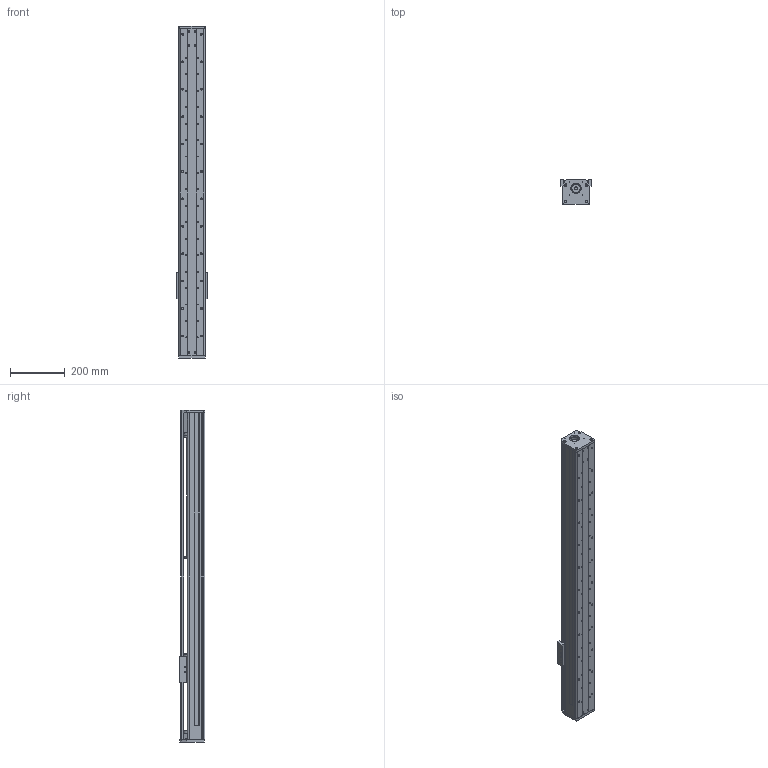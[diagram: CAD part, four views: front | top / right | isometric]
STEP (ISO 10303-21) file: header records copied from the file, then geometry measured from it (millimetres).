
FILE_DESCRIPTION (( 'STEP AP203' ), '1' );
FILE_NAME ('CF95-2-P950.STEP', '2016-02-22T07:41:42', ( 'Sky123.Org' ), ( 'Sky123.Org' ), 'SwSTEP 2.0', 'SolidWorks 2015', '' );
FILE_SCHEMA (( 'CONFIG_CONTROL_DESIGN' ));
Length unit declared in the file: millimetre
Products named in the file (19): 95粣創裔啣; CF95-2-P950; 95盓厥傷; SFS1610-520; 坶踡蹟譫M12-1; 95裔啣-1; 95-2邧寢賑輸; HGR15絳寢; SFU1604-3; hGH15CA賑輸; 95滅袉蝶菜; CF95-57萇儂假蚾啣; 95-2耜啣; CF95固定座（配30-42联轴器）; deep groove ball bearings gb_Rolling bearings 6001 GB 276-94; angular contact ball bearings gb_Rolling bearings S7001 GB 292-94; CF95-2臏倰第; circlips for shaft--type a large gb_GB_CONNECTING_PIECE_RING_RRA 12; 30-42薊粣ん
Assembly tree (22 placements, depth 2):
  CF95-2-P950
    CF95-2臏倰第
    95粣創裔啣
    SFS1610-520
    95裔啣-1
    HGR15絳寢  x2
    hGH15CA賑輸  x2
    CF95-57萇儂假蚾啣
    CF95固定座（配30-42联轴器）
    angular contact ball bearings gb_Rolling bearings S7001 GB 292-94  x2
    30-42薊粣ん
    95盓厥傷
    坶踡蹟譫M12-1
    95-2邧寢賑輸
    SFU1604-3
    95滅袉蝶菜  x2
    95-2耜啣
    deep groove ball bearings gb_Rolling bearings 6001 GB 276-94
    circlips for shaft--type a large gb_GB_CONNECTING_PIECE_RING_RRA 12
Bounding box: 110 x 92.5 x 1211 mm (x, y, z)
Volume: 3602368.6 mm3; surface area: 1157776 mm2
Topology: 22 solids, 22 shells, 1421 faces, 4502 edges, 2990 vertices
Faces by surface type: cylinder 631, plane 536, torus 159, sphere 84, cone 10, bspline 1
Entity records: 46212 total; most frequent: CARTESIAN_POINT 11964, ORIENTED_EDGE 6850, DIRECTION 6792, EDGE_CURVE 3425, AXIS2_PLACEMENT_3D 2691, VERTEX_POINT 2267, CIRCLE 1497, EDGE_LOOP 1492
